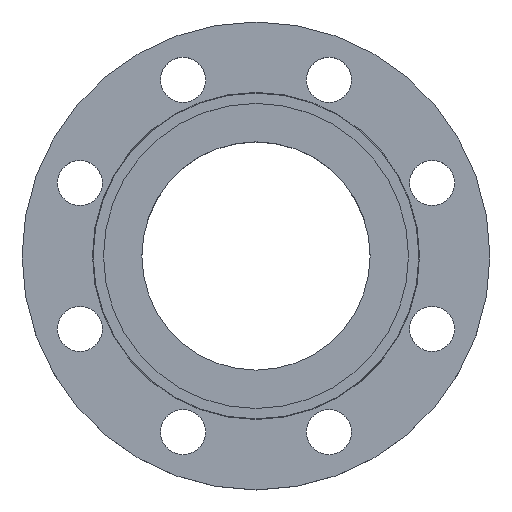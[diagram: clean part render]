
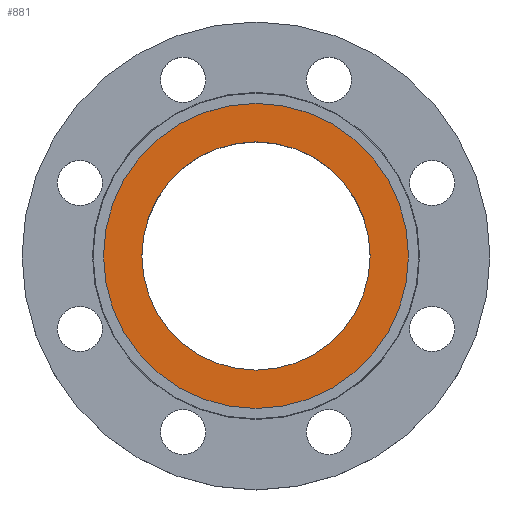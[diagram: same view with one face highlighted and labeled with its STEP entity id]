
A CAD part, top view. The second image highlights one B-rep face of the part: STEP entity #881.
In plain terms, the highlighted planar face has unit normal (0, 0, 1).
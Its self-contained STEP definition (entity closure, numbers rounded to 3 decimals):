
#128 = EDGE_LOOP ( 'NONE', ( #931, #919 ) ) ;
#131 = EDGE_CURVE ( 'NONE', #842, #144, #152, .T. ) ;
#139 = CARTESIAN_POINT ( 'NONE',  ( 88., 0., -4.5 ) ) ;
#144 = VERTEX_POINT ( 'NONE', #363 ) ;
#152 = CIRCLE ( 'NONE', #826, 65.85 ) ;
#156 = ORIENTED_EDGE ( 'NONE', *, *, #308, .F. ) ;
#186 = DIRECTION ( 'NONE',  ( 0., 0., 1. ) ) ;
#206 = DIRECTION ( 'NONE',  ( -1., 0., 0. ) ) ;
#226 = CARTESIAN_POINT ( 'NONE',  ( 0., 0., -4.5 ) ) ;
#270 = FACE_OUTER_BOUND ( 'NONE', #1023, .T. ) ;
#308 = EDGE_CURVE ( 'NONE', #1018, #944, #1153, .T. ) ;
#363 = CARTESIAN_POINT ( 'NONE',  ( 65.85, 0., -4.5 ) ) ;
#366 = CARTESIAN_POINT ( 'NONE',  ( 0., 0., -4.5 ) ) ;
#387 = ORIENTED_EDGE ( 'NONE', *, *, #659, .F. ) ;
#421 = CARTESIAN_POINT ( 'NONE',  ( 0., 0., -4.5 ) ) ;
#424 = CIRCLE ( 'NONE', #1105, 65.85 ) ;
#510 = CARTESIAN_POINT ( 'NONE',  ( -88., 0., -4.5 ) ) ;
#541 = DIRECTION ( 'NONE',  ( 1., 0., 0. ) ) ;
#582 = DIRECTION ( 'NONE',  ( 0., 0., -1. ) ) ;
#608 = AXIS2_PLACEMENT_3D ( 'NONE', #421, #784, #1167 ) ;
#609 = EDGE_CURVE ( 'NONE', #144, #842, #424, .T. ) ;
#614 = AXIS2_PLACEMENT_3D ( 'NONE', #654, #1031, #206 ) ;
#633 = PLANE ( 'NONE',  #1066 ) ;
#654 = CARTESIAN_POINT ( 'NONE',  ( 0., 0., -4.5 ) ) ;
#659 = EDGE_CURVE ( 'NONE', #944, #1018, #1149, .T. ) ;
#733 = DIRECTION ( 'NONE',  ( 0., 0., -1. ) ) ;
#784 = DIRECTION ( 'NONE',  ( 0., 0., -1. ) ) ;
#826 = AXIS2_PLACEMENT_3D ( 'NONE', #366, #733, #1110 ) ;
#842 = VERTEX_POINT ( 'NONE', #903 ) ;
#881 = ADVANCED_FACE ( 'NONE', ( #1099, #270 ), #633, .T. ) ;
#903 = CARTESIAN_POINT ( 'NONE',  ( -65.85, 0., -4.5 ) ) ;
#919 = ORIENTED_EDGE ( 'NONE', *, *, #609, .T. ) ;
#931 = ORIENTED_EDGE ( 'NONE', *, *, #131, .T. ) ;
#944 = VERTEX_POINT ( 'NONE', #139 ) ;
#963 = DIRECTION ( 'NONE',  ( 1., 0., 0. ) ) ;
#1012 = CARTESIAN_POINT ( 'NONE',  ( 88., 0., -4.5 ) ) ;
#1018 = VERTEX_POINT ( 'NONE', #510 ) ;
#1023 = EDGE_LOOP ( 'NONE', ( #156, #387 ) ) ;
#1031 = DIRECTION ( 'NONE',  ( 0., 0., -1. ) ) ;
#1066 = AXIS2_PLACEMENT_3D ( 'NONE', #1012, #186, #541 ) ;
#1099 = FACE_BOUND ( 'NONE', #128, .T. ) ;
#1105 = AXIS2_PLACEMENT_3D ( 'NONE', #226, #582, #963 ) ;
#1110 = DIRECTION ( 'NONE',  ( 1., 0., 0. ) ) ;
#1149 = CIRCLE ( 'NONE', #608, 88. ) ;
#1153 = CIRCLE ( 'NONE', #614, 88. ) ;
#1167 = DIRECTION ( 'NONE',  ( -1., 0., 0. ) ) ;
